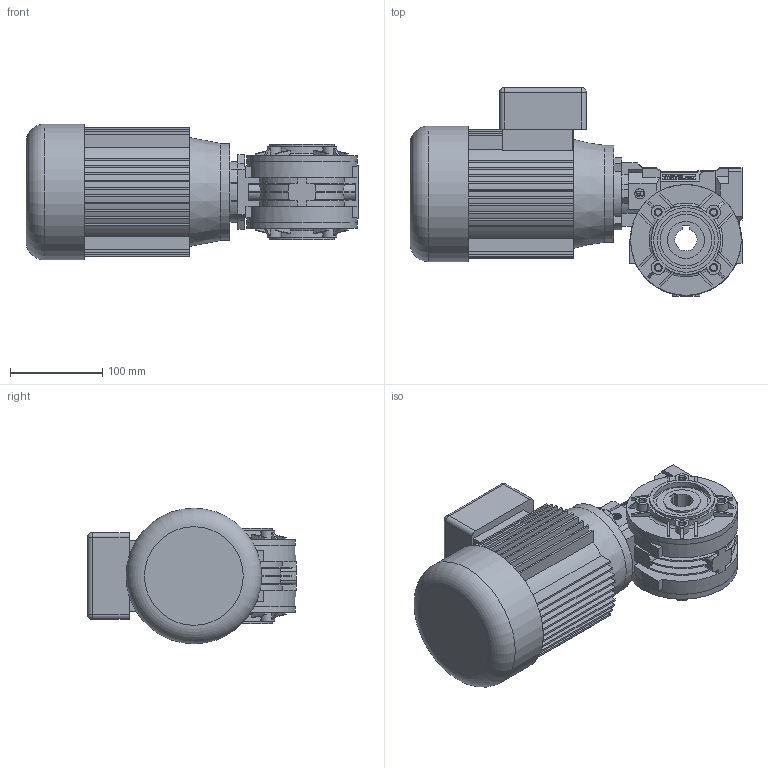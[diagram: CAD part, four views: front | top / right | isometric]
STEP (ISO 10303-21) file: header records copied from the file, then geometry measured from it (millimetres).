
FILE_DESCRIPTION( ( 'Unknown' ), '1' );
FILE_NAME( 'E:/services/configuratordownloads/customers/VARVEL/RS/download/753122F04F1BC8FDED449846E8A5878/STEP/753122F04F1BC8FDED449846E8A5878.3d.stp', 'Unknown', ( 'Unknown' ), ( 'Unknown' ), 'PSStep 10.1', 'Unknown', ' ' );
FILE_SCHEMA( ( 'AUTOMOTIVE_DESIGN { 1 0 10303 214 1 1 1 1 }' ) );
Length unit declared in the file: millimetre
Products named in the file (1): 572101
Bounding box: 359.75 x 226 x 147 mm (x, y, z)
Volume: 4186309.6 mm3; surface area: 394148 mm2
Topology: 1 solids, 4 shells, 891 faces, 2410 edges, 1596 vertices
Faces by surface type: plane 672, cylinder 169, torus 25, cone 21, sphere 4
Full cylindrical faces by diameter (mm): 5 x8, 7 x12, 11 x1, 14 x1, 17 x1, 18 x1, 40 x2, 45 x1, 47 x2, 56.1 x3, 59 x1, 60 x1, 61 x2, 62 x2, 68 x2, 69 x1, 70 x3, 86 x1, 105 x1, 120 x2, 147 x1
Entity records: 35268 total; most frequent: CARTESIAN_POINT 5870, ORIENTED_EDGE 4624, DIRECTION 4476, EDGE_CURVE 2312, LINE 1738, VECTOR 1738, VERTEX_POINT 1565, AXIS2_PLACEMENT_3D 1369
